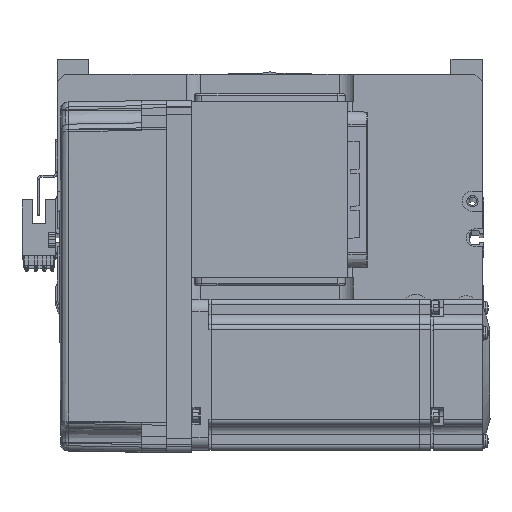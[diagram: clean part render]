
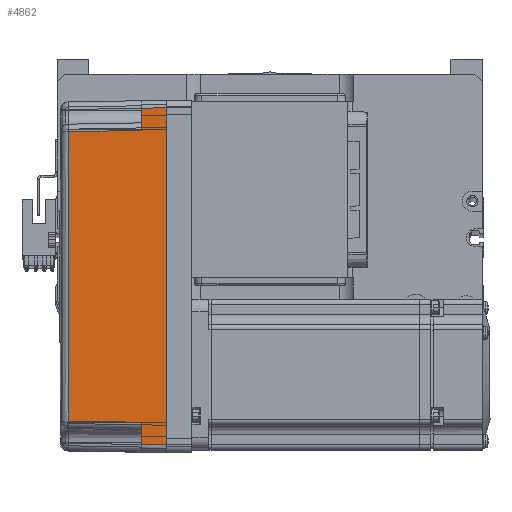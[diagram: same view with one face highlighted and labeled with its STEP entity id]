
A CAD part, top view. The second image highlights one B-rep face of the part: STEP entity #4862.
In plain terms, the highlighted planar face has unit normal (-0.018, 0, 1) as drawn and (0, -1, 0.017) by its records, which use the part's own axes.
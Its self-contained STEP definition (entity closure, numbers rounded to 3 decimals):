
#226 = CARTESIAN_POINT ( 'NONE',  ( -67., -36., 0. ) ) ;
#2017 = ORIENTED_EDGE ( 'NONE', *, *, #37236, .T. ) ;
#2138 = ORIENTED_EDGE ( 'NONE', *, *, #47165, .T. ) ;
#2279 = EDGE_CURVE ( 'NONE', #2949, #22799, #49731, .T. ) ;
#2949 = VERTEX_POINT ( 'NONE', #28254 ) ;
#3143 = VERTEX_POINT ( 'NONE', #5214 ) ;
#4344 = PLANE ( 'NONE',  #10388 ) ;
#4862 = ADVANCED_FACE ( 'NONE', ( #37000 ), #4344, .T. ) ;
#5214 = CARTESIAN_POINT ( 'NONE',  ( 58., -35.825, 10. ) ) ;
#7751 = CARTESIAN_POINT ( 'NONE',  ( 70., -36., 0. ) ) ;
#9260 = VERTEX_POINT ( 'NONE', #22376 ) ;
#9920 = DIRECTION ( 'NONE',  ( -1., 0., 0. ) ) ;
#10388 = AXIS2_PLACEMENT_3D ( 'NONE', #7751, #42610, #33727 ) ;
#11679 = LINE ( 'NONE', #29175, #30721 ) ;
#11805 = CARTESIAN_POINT ( 'NONE',  ( 57.495, -35.32, 38.985 ) ) ;
#11882 = ORIENTED_EDGE ( 'NONE', *, *, #32085, .T. ) ;
#13074 = CARTESIAN_POINT ( 'NONE',  ( -57.495, -35.32, 38.985 ) ) ;
#14535 = B_SPLINE_CURVE_WITH_KNOTS ( 'NONE', 3,
 ( #11805, #60812, #36212, #45731 ),
 .UNSPECIFIED., .F., .F.,
 ( 4, 4 ),
 ( 0., 1. ),
 .UNSPECIFIED. ) ;
#17895 = CARTESIAN_POINT ( 'NONE',  ( 57.495, -35.32, 38.985 ) ) ;
#18361 = EDGE_CURVE ( 'NONE', #2949, #46483, #59940, .T. ) ;
#19913 = EDGE_CURVE ( 'NONE', #22799, #3143, #55264, .T. ) ;
#21499 = VECTOR ( 'NONE', #37513, 1000. ) ;
#22376 = CARTESIAN_POINT ( 'NONE',  ( -58., -35.825, 10. ) ) ;
#22799 = VERTEX_POINT ( 'NONE', #40228 ) ;
#23053 = DIRECTION ( 'NONE',  ( -1., 0., 0. ) ) ;
#23064 = CARTESIAN_POINT ( 'NONE',  ( 58., -35.825, 10. ) ) ;
#23274 = CARTESIAN_POINT ( 'NONE',  ( 70., -35.825, 10. ) ) ;
#23938 = VECTOR ( 'NONE', #27069, 1000. ) ;
#25166 = EDGE_CURVE ( 'NONE', #46483, #36822, #11679, .T. ) ;
#26113 = EDGE_CURVE ( 'NONE', #57432, #9260, #60955, .T. ) ;
#27069 = DIRECTION ( 'NONE',  ( -0.017, 0.017, 1. ) ) ;
#28254 = CARTESIAN_POINT ( 'NONE',  ( 67., -36., 0. ) ) ;
#29175 = CARTESIAN_POINT ( 'NONE',  ( -66.959, -35.958, 2.39 ) ) ;
#30721 = VECTOR ( 'NONE', #58028, 1000. ) ;
#31075 = ORIENTED_EDGE ( 'NONE', *, *, #19913, .T. ) ;
#31093 = VECTOR ( 'NONE', #9920, 1000. ) ;
#32085 = EDGE_CURVE ( 'NONE', #40562, #57432, #14535, .T. ) ;
#32478 = ORIENTED_EDGE ( 'NONE', *, *, #2279, .T. ) ;
#33727 = DIRECTION ( 'NONE',  ( 0., -0.017, -1. ) ) ;
#34668 = ORIENTED_EDGE ( 'NONE', *, *, #18361, .F. ) ;
#35619 = DIRECTION ( 'NONE',  ( -1., 0., 0. ) ) ;
#36212 = CARTESIAN_POINT ( 'NONE',  ( -19.165, -35.316, 39.181 ) ) ;
#36822 = VERTEX_POINT ( 'NONE', #53042 ) ;
#37000 = FACE_OUTER_BOUND ( 'NONE', #44906, .T. ) ;
#37236 = EDGE_CURVE ( 'NONE', #3143, #40562, #58093, .T. ) ;
#37513 = DIRECTION ( 'NONE',  ( -0.017, -0.017, -1. ) ) ;
#37653 = CARTESIAN_POINT ( 'NONE',  ( 67., -36., 0. ) ) ;
#38346 = ORIENTED_EDGE ( 'NONE', *, *, #26113, .T. ) ;
#40228 = CARTESIAN_POINT ( 'NONE',  ( 66.826, -35.825, 10. ) ) ;
#40562 = VERTEX_POINT ( 'NONE', #17895 ) ;
#41394 = ORIENTED_EDGE ( 'NONE', *, *, #25166, .F. ) ;
#41932 = DIRECTION ( 'NONE',  ( -0.017, 0.017, 1. ) ) ;
#42610 = DIRECTION ( 'NONE',  ( 0., -1., 0.017 ) ) ;
#44906 = EDGE_LOOP ( 'NONE', ( #32478, #31075, #2017, #11882, #38346, #2138, #41394, #34668 ) ) ;
#45731 = CARTESIAN_POINT ( 'NONE',  ( -57.495, -35.32, 38.985 ) ) ;
#46483 = VERTEX_POINT ( 'NONE', #226 ) ;
#46906 = VECTOR ( 'NONE', #23053, 1000. ) ;
#47165 = EDGE_CURVE ( 'NONE', #9260, #36822, #59255, .T. ) ;
#49731 = LINE ( 'NONE', #37653, #23938 ) ;
#50647 = CARTESIAN_POINT ( 'NONE',  ( 70., -35.825, 10. ) ) ;
#51620 = VECTOR ( 'NONE', #35619, 1000. ) ;
#53042 = CARTESIAN_POINT ( 'NONE',  ( -66.826, -35.825, 10. ) ) ;
#55264 = LINE ( 'NONE', #23274, #46906 ) ;
#56195 = CARTESIAN_POINT ( 'NONE',  ( -57.495, -35.32, 38.985 ) ) ;
#56575 = VECTOR ( 'NONE', #41932, 1000. ) ;
#57432 = VERTEX_POINT ( 'NONE', #13074 ) ;
#58028 = DIRECTION ( 'NONE',  ( 0.017, 0.017, 1. ) ) ;
#58093 = LINE ( 'NONE', #23064, #56575 ) ;
#59255 = LINE ( 'NONE', #50647, #51620 ) ;
#59940 = LINE ( 'NONE', #60699, #31093 ) ;
#60699 = CARTESIAN_POINT ( 'NONE',  ( 0., -36., 0. ) ) ;
#60812 = CARTESIAN_POINT ( 'NONE',  ( 19.165, -35.316, 39.181 ) ) ;
#60955 = LINE ( 'NONE', #56195, #21499 ) ;
